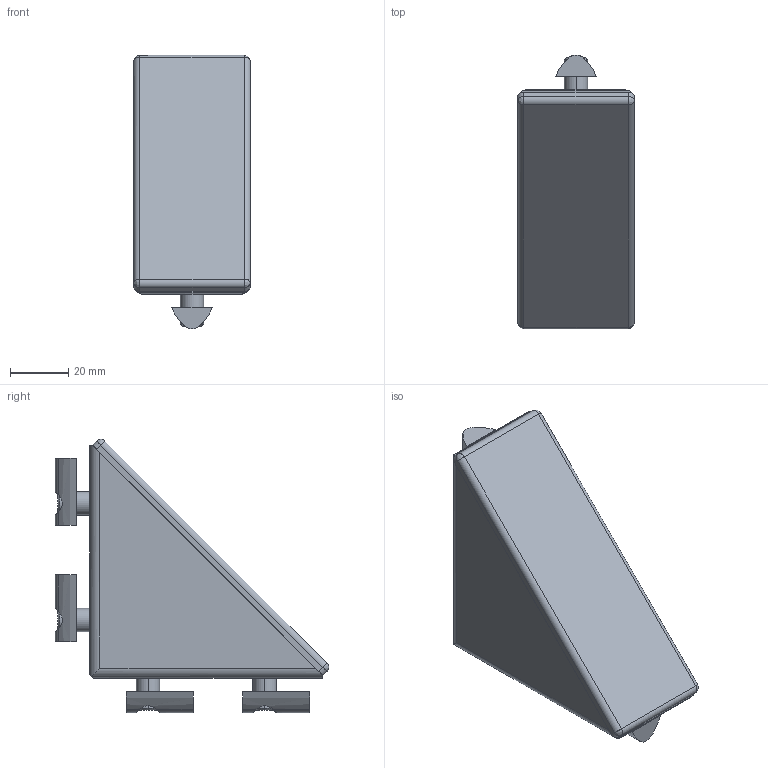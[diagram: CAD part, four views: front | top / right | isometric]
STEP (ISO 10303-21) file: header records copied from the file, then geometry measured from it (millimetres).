
FILE_DESCRIPTION (( 'STEP AP203' ), '1' );
FILE_NAME ('0108W8080ZNSZ.STEP', '2024-03-13T08:37:30', ( 'Windows-Benutzer' ), ( '' ), 'SwSTEP 2.0', 'SolidWorks 2023', '' );
FILE_SCHEMA (( 'CONFIG_CONTROL_DESIGN' ));
Length unit declared in the file: millimetre
Products named in the file (1): 0108W8080ZNSZ
Bounding box: 40 x 93.79 x 93.79 mm (x, y, z)
Volume: 71587.8 mm3; surface area: 44658.1 mm2
Topology: 14 solids, 14 shells, 253 faces, 612 edges, 396 vertices
Faces by surface type: plane 123, cylinder 102, bspline 20, cone 8
Entity records: 8337 total; most frequent: CARTESIAN_POINT 2381, DIRECTION 1218, ORIENTED_EDGE 1216, EDGE_CURVE 608, AXIS2_PLACEMENT_3D 447, VERTEX_POINT 396, LINE 324, VECTOR 324
